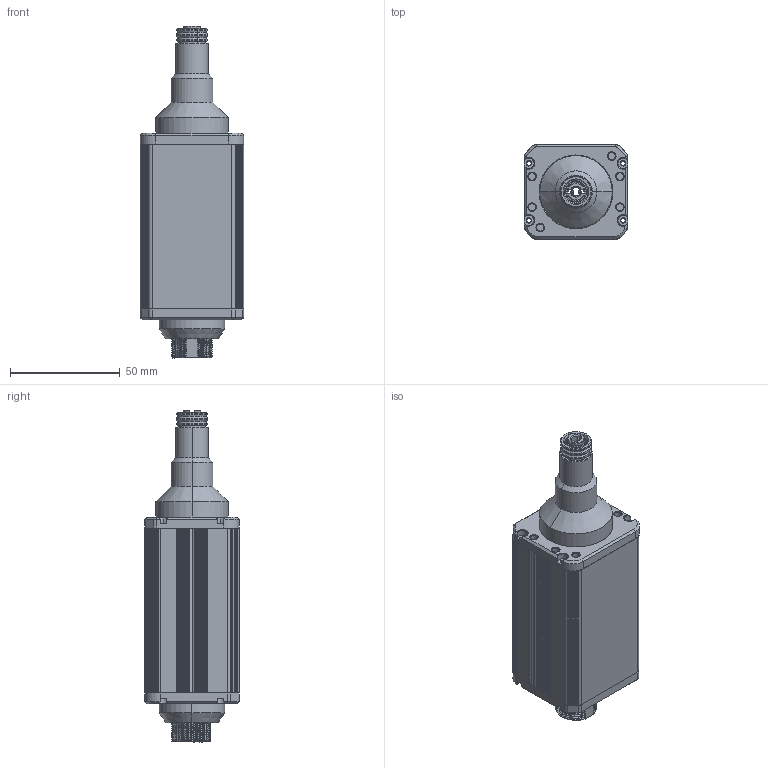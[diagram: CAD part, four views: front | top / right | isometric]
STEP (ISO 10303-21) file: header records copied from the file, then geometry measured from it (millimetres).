
FILE_DESCRIPTION (( 'STEP AP203' ), '1' );
FILE_NAME ('ZEDA-DE-MA4-0050.STEP', '2026-06-04T03:23:11', ( 'Windows User' ), ( 'P R C' ), 'SwSTEP 2.0', 'SolidWorks 2025', '' );
FILE_SCHEMA (( 'CONFIG_CONTROL_DESIGN' ));
Length unit declared in the file: millimetre
Products named in the file (1): ZEDA-DE-MA4-0050
Bounding box: 47 x 43 x 151.15 mm (x, y, z)
Surface area: 28424 mm2 (no closed solid volume)
Topology: 0 solids, 19 shells, 485 faces, 1563 edges, 1073 vertices
Faces by surface type: cylinder 264, plane 91, cone 74, bspline 30, torus 26
Entity records: 32170 total; most frequent: CARTESIAN_POINT 18547, DIRECTION 2912, ORIENTED_EDGE 2778, EDGE_CURVE 1563, AXIS2_PLACEMENT_3D 1137, VERTEX_POINT 1073, CIRCLE 681, LINE 638
